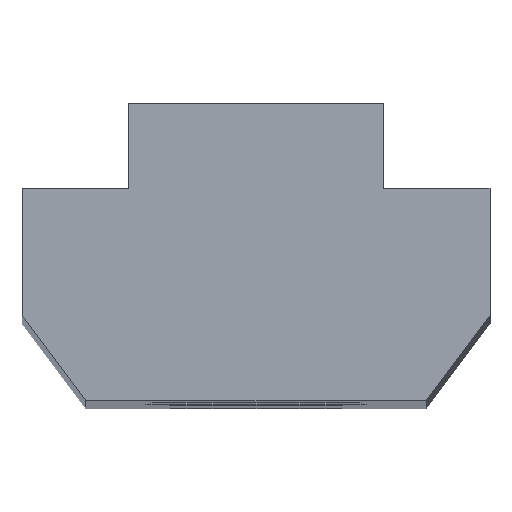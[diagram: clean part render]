
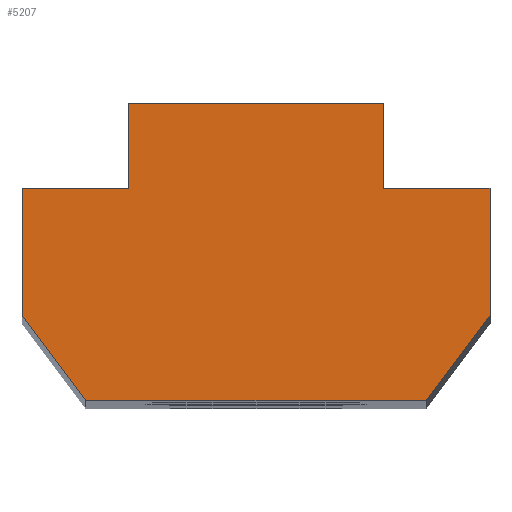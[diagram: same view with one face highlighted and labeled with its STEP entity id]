
A CAD part, top view. The second image highlights one B-rep face of the part: STEP entity #5207.
In plain terms, the highlighted planar face has unit normal (0, 0, 1).
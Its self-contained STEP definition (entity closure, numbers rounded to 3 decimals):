
#25 = EDGE_LOOP ( 'NONE', ( #5966, #993, #2738, #4850, #2216, #5280, #4475, #2610, #1210, #2836 ) ) ;
#256 = CARTESIAN_POINT ( 'NONE',  ( 5.5, -35.544, 55. ) ) ;
#442 = DIRECTION ( 'NONE',  ( 0., 0., 1. ) ) ;
#510 = VERTEX_POINT ( 'NONE', #6529 ) ;
#562 = CARTESIAN_POINT ( 'NONE',  ( -4., -37.544, 55. ) ) ;
#718 = CARTESIAN_POINT ( 'NONE',  ( -3., -30.544, 55. ) ) ;
#843 = EDGE_CURVE ( 'NONE', #510, #900, #2763, .T. ) ;
#900 = VERTEX_POINT ( 'NONE', #562 ) ;
#993 = ORIENTED_EDGE ( 'NONE', *, *, #843, .T. ) ;
#1004 = LINE ( 'NONE', #256, #3179 ) ;
#1179 = CARTESIAN_POINT ( 'NONE',  ( -5.5, -37.544, 55. ) ) ;
#1210 = ORIENTED_EDGE ( 'NONE', *, *, #2242, .T. ) ;
#1262 = DIRECTION ( 'NONE',  ( 0.6, -0.8, 0. ) ) ;
#1281 = EDGE_CURVE ( 'NONE', #4354, #6335, #4873, .T. ) ;
#1615 = CARTESIAN_POINT ( 'NONE',  ( -3., -32.544, 55. ) ) ;
#1659 = VECTOR ( 'NONE', #3428, 1000. ) ;
#1804 = VERTEX_POINT ( 'NONE', #4854 ) ;
#1934 = PLANE ( 'NONE',  #2650 ) ;
#1939 = EDGE_CURVE ( 'NONE', #4777, #4694, #5734, .T. ) ;
#2021 = CARTESIAN_POINT ( 'NONE',  ( -5.5, -35.544, 55. ) ) ;
#2069 = CARTESIAN_POINT ( 'NONE',  ( -3., -30.544, 55. ) ) ;
#2213 = LINE ( 'NONE', #718, #4994 ) ;
#2216 = ORIENTED_EDGE ( 'NONE', *, *, #3298, .T. ) ;
#2242 = EDGE_CURVE ( 'NONE', #4694, #4354, #2213, .T. ) ;
#2467 = FACE_OUTER_BOUND ( 'NONE', #25, .T. ) ;
#2610 = ORIENTED_EDGE ( 'NONE', *, *, #1939, .T. ) ;
#2650 = AXIS2_PLACEMENT_3D ( 'NONE', #1179, #442, #6790 ) ;
#2691 = VECTOR ( 'NONE', #3442, 1000. ) ;
#2738 = ORIENTED_EDGE ( 'NONE', *, *, #2881, .T. ) ;
#2759 = DIRECTION ( 'NONE',  ( 0., -1., 0. ) ) ;
#2763 = LINE ( 'NONE', #2021, #5977 ) ;
#2836 = ORIENTED_EDGE ( 'NONE', *, *, #1281, .T. ) ;
#2881 = EDGE_CURVE ( 'NONE', #900, #3190, #4415, .T. ) ;
#2938 = DIRECTION ( 'NONE',  ( 1., 0., 0. ) ) ;
#2973 = DIRECTION ( 'NONE',  ( 0., 1., 0. ) ) ;
#3042 = EDGE_CURVE ( 'NONE', #3190, #6407, #1004, .T. ) ;
#3179 = VECTOR ( 'NONE', #6616, 1000. ) ;
#3190 = VERTEX_POINT ( 'NONE', #4064 ) ;
#3298 = EDGE_CURVE ( 'NONE', #6407, #6453, #6530, .T. ) ;
#3428 = DIRECTION ( 'NONE',  ( -1., 0., 0. ) ) ;
#3442 = DIRECTION ( 'NONE',  ( 0., 1., 0. ) ) ;
#3507 = CARTESIAN_POINT ( 'NONE',  ( -5.5, -32.544, 55. ) ) ;
#3631 = EDGE_CURVE ( 'NONE', #6453, #1804, #5352, .T. ) ;
#3692 = CARTESIAN_POINT ( 'NONE',  ( -4., -37.544, 55. ) ) ;
#3726 = CARTESIAN_POINT ( 'NONE',  ( 5.5, -32.544, 55. ) ) ;
#3920 = DIRECTION ( 'NONE',  ( -1., 0., 0. ) ) ;
#3982 = EDGE_CURVE ( 'NONE', #1804, #4777, #4886, .T. ) ;
#4064 = CARTESIAN_POINT ( 'NONE',  ( 4., -37.544, 55. ) ) ;
#4110 = VECTOR ( 'NONE', #2759, 1000. ) ;
#4169 = CARTESIAN_POINT ( 'NONE',  ( -5.5, -32.544, 55. ) ) ;
#4184 = CARTESIAN_POINT ( 'NONE',  ( 3., -30.544, 55. ) ) ;
#4253 = LINE ( 'NONE', #3507, #4110 ) ;
#4330 = DIRECTION ( 'NONE',  ( -1., 0., 0. ) ) ;
#4354 = VERTEX_POINT ( 'NONE', #1615 ) ;
#4375 = CARTESIAN_POINT ( 'NONE',  ( 5.5, -32.544, 55. ) ) ;
#4415 = LINE ( 'NONE', #3692, #5492 ) ;
#4475 = ORIENTED_EDGE ( 'NONE', *, *, #3982, .T. ) ;
#4533 = CARTESIAN_POINT ( 'NONE',  ( -5.5, -32.544, 55. ) ) ;
#4638 = CARTESIAN_POINT ( 'NONE',  ( 3., -32.544, 55. ) ) ;
#4694 = VERTEX_POINT ( 'NONE', #2069 ) ;
#4777 = VERTEX_POINT ( 'NONE', #6747 ) ;
#4850 = ORIENTED_EDGE ( 'NONE', *, *, #3042, .T. ) ;
#4854 = CARTESIAN_POINT ( 'NONE',  ( 3., -32.544, 55. ) ) ;
#4873 = LINE ( 'NONE', #4169, #1659 ) ;
#4886 = LINE ( 'NONE', #4184, #2691 ) ;
#4994 = VECTOR ( 'NONE', #7040, 1000. ) ;
#5029 = CARTESIAN_POINT ( 'NONE',  ( -3., -30.544, 55. ) ) ;
#5043 = VECTOR ( 'NONE', #4330, 1000. ) ;
#5207 = ADVANCED_FACE ( 'NONE', ( #2467 ), #1934, .T. ) ;
#5280 = ORIENTED_EDGE ( 'NONE', *, *, #3631, .T. ) ;
#5352 = LINE ( 'NONE', #4638, #5565 ) ;
#5492 = VECTOR ( 'NONE', #2938, 1000. ) ;
#5565 = VECTOR ( 'NONE', #3920, 1000. ) ;
#5734 = LINE ( 'NONE', #5029, #5043 ) ;
#5770 = EDGE_CURVE ( 'NONE', #6335, #510, #4253, .T. ) ;
#5966 = ORIENTED_EDGE ( 'NONE', *, *, #5770, .T. ) ;
#5977 = VECTOR ( 'NONE', #1262, 1000. ) ;
#6221 = VECTOR ( 'NONE', #2973, 1000. ) ;
#6335 = VERTEX_POINT ( 'NONE', #4533 ) ;
#6407 = VERTEX_POINT ( 'NONE', #6460 ) ;
#6453 = VERTEX_POINT ( 'NONE', #4375 ) ;
#6460 = CARTESIAN_POINT ( 'NONE',  ( 5.5, -35.544, 55. ) ) ;
#6529 = CARTESIAN_POINT ( 'NONE',  ( -5.5, -35.544, 55. ) ) ;
#6530 = LINE ( 'NONE', #3726, #6221 ) ;
#6616 = DIRECTION ( 'NONE',  ( 0.6, 0.8, 0. ) ) ;
#6747 = CARTESIAN_POINT ( 'NONE',  ( 3., -30.544, 55. ) ) ;
#6790 = DIRECTION ( 'NONE',  ( 1., 0., 0. ) ) ;
#7040 = DIRECTION ( 'NONE',  ( 0., -1., 0. ) ) ;
